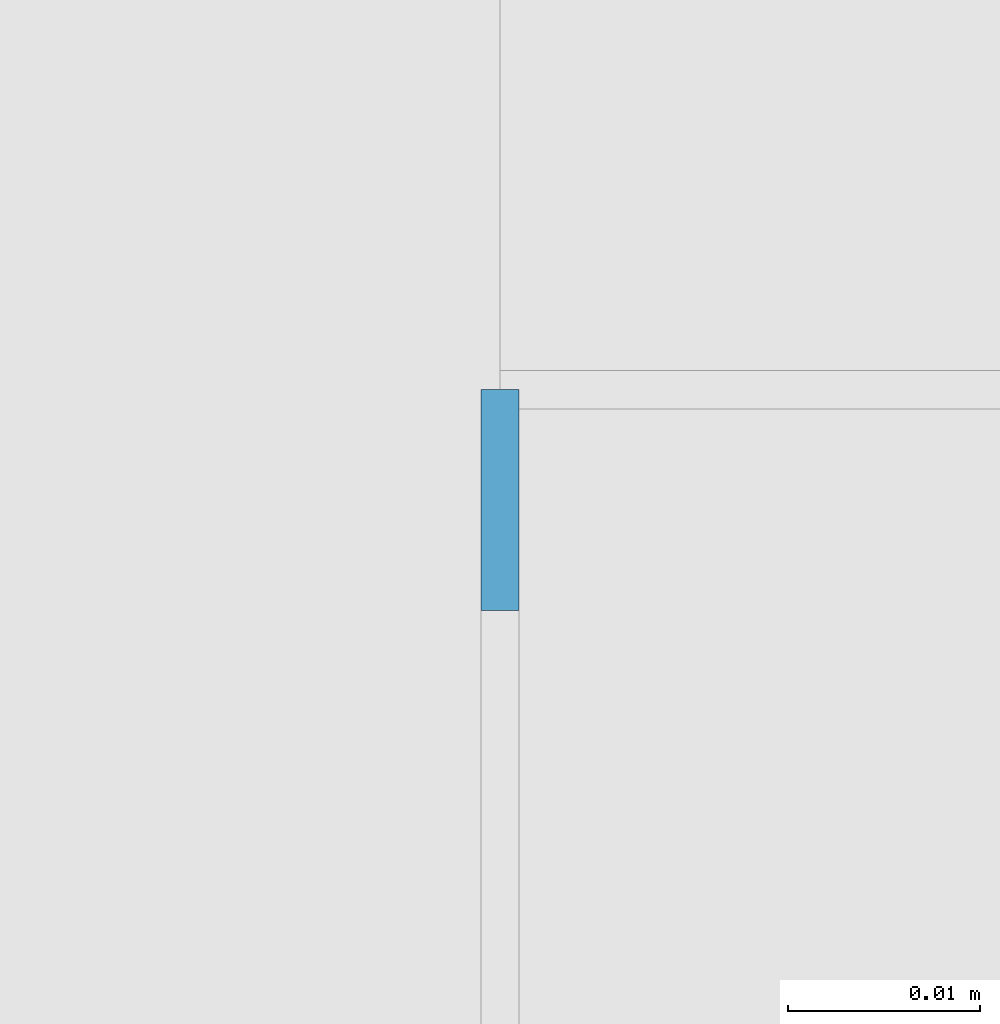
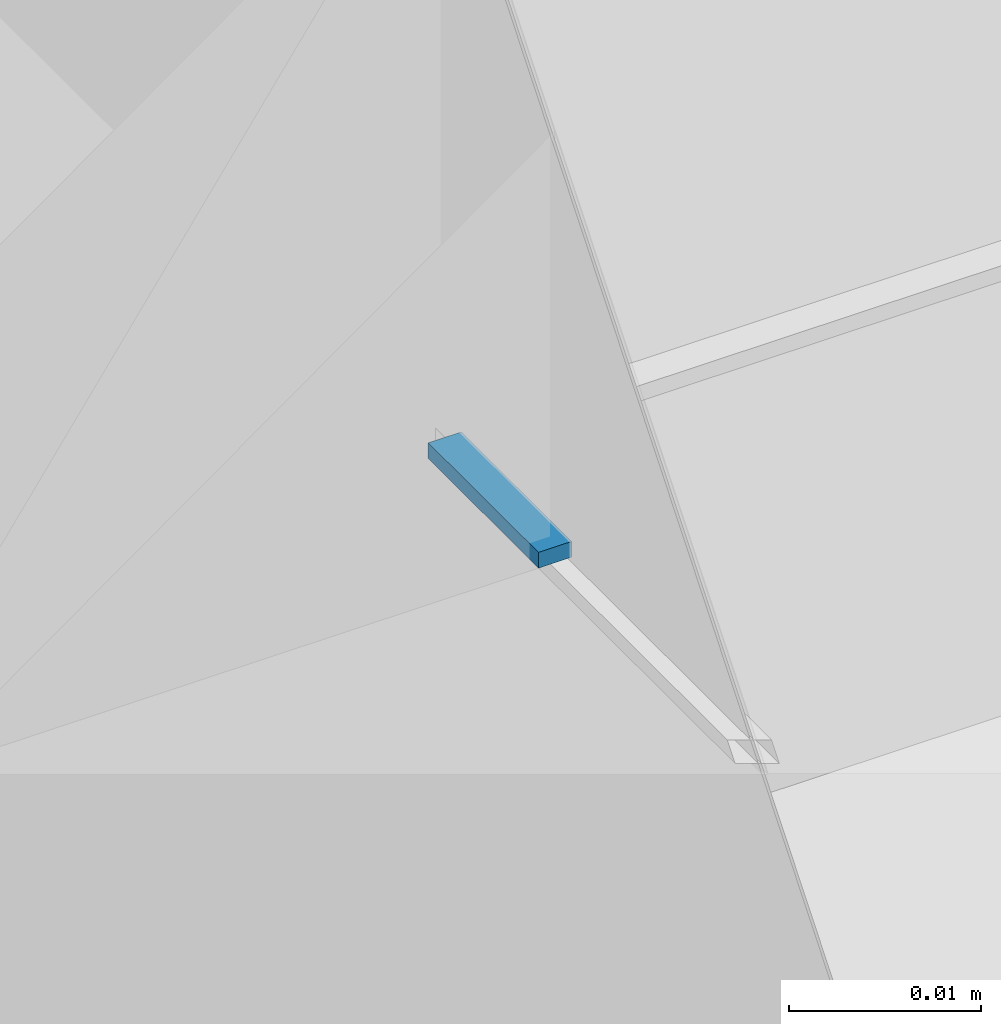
# One storey, part 6 of 11: 1 beam.
"""IFC2X3 building model written with IfcOpenShell, lengths in metres."""

from ifc_helpers import new_model, si_unit, direction, frame, origin_with_axes, place, context, subcontext, project, spatial, polyline, outline, extrude, material, type_object, element, save


model = new_model("IFC2X3")

# Units and contexts
model_context = context("Model", 3, precision=0.0001, world=origin_with_axes(), true_north=direction((0.0, 1.0)))
plan_context = context("Plan", 2, precision=0.0001, world=origin_with_axes(), true_north=direction((0.0, 1.0)))
body_context = subcontext(model_context, "Body", "Model", "MODEL_VIEW")
ifc_project = project(units=[si_unit("MASSUNIT", "GRAM", prefix="KILO"), si_unit("AREAUNIT", "SQUARE_METRE"), si_unit("LENGTHUNIT", "METRE"), si_unit("VOLUMEUNIT", "CUBIC_METRE")], contexts=[plan_context, model_context])

# Site, building, storey
site_placement = place(None, origin_with_axes())
site = spatial("IfcSite", under=ifc_project, at=site_placement, Name="$", CompositionType="ELEMENT")
building_placement = place(site_placement, origin_with_axes())
building = spatial("IfcBuilding", under=site, at=building_placement, Name="Classeur ENS Ensemble", CompositionType="ELEMENT")
storey_placement = place(building_placement, frame((-3.040468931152, -16.07714394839, 6.03), z_axis=(0.0, 0.0, 1.0), x_axis=(1.0, 0.0, 0.0)))
storey = spatial("IfcBuildingStorey", under=building, at=storey_placement, Name="003 R+2", CompositionType="ELEMENT", Elevation=6.03)

# Beam
ifc_material = material(Name="Default material")
beam_type = type_object("IfcBeamType", PredefinedType="BEAM")
beam_placement = place(storey_placement, frame((6.54597535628, 4.285654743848, 2.5), z_axis=(0.0, 0.0, 1.0), x_axis=(0.0, 1.0, 0.0)))
element("IfcBeam", 1, at=beam_placement, inside=storey, type_object=beam_type, material=ifc_material, Name="poutre fictive 250", context=body_context, shape_type="SweptSolid", held_by="IfcProductRepresentation", body=[
    extrude(outline(polyline([(0.0, 0.001000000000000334), (0.0, 0.001000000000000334), (0.0, 0.001000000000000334), (0.01148920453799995, 0.001000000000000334), (0.01148920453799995, 0.001000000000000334), (0.01148920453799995, 0.001000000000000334), (0.01148920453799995, -0.001000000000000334), (0.01148920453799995, -0.001000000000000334), (0.01148920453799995, -0.001000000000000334), (0.0, -0.001000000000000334), (0.0, -0.001000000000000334), (0.0, -0.001000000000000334), (0.0, 0.001000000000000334)])), origin_with_axes(), (0.0, 0.0, 1.0), 0.001),
])

save(model, "model.ifc")
